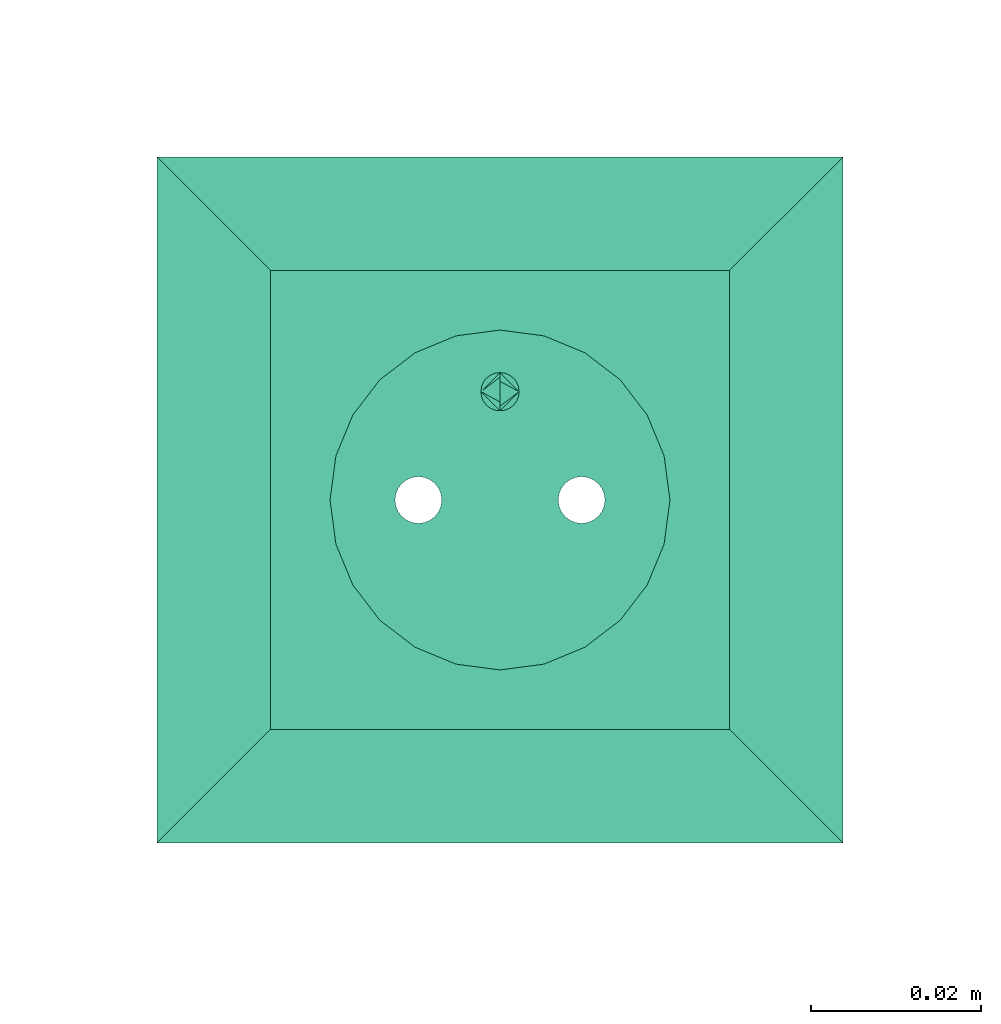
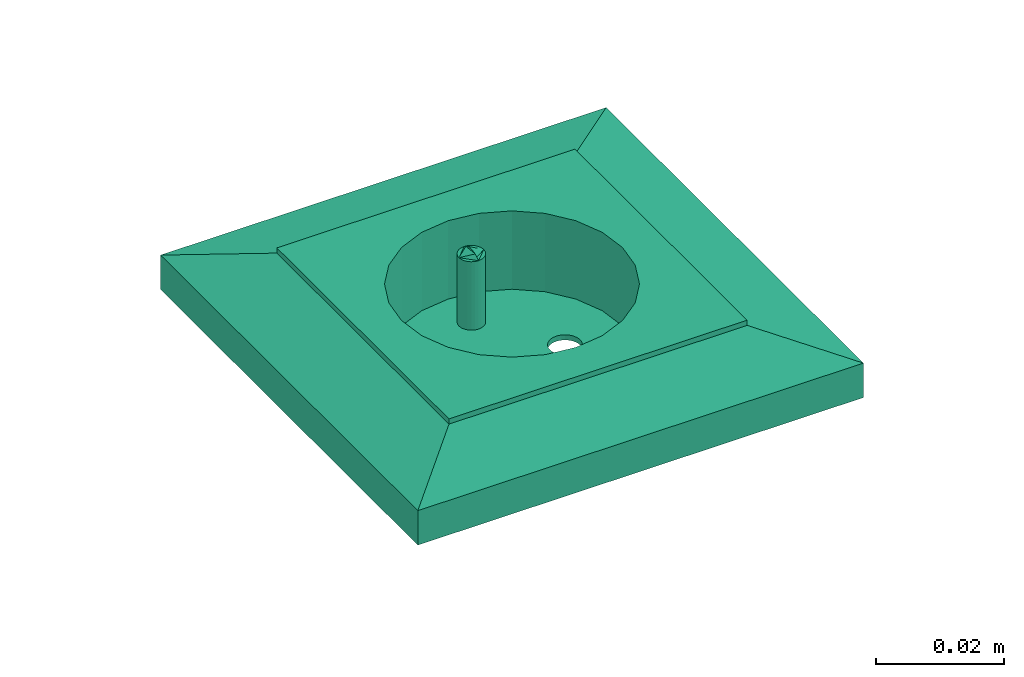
# One storey, part 30 of 153: 1 flow terminal.
"""IFC2X3 building model written with IfcOpenShell, lengths in metres."""

import ifcopenshell
import ifcopenshell.guid

model = None  # the IFC model being written
_history = None  # IfcOwnerHistory: only IFC2X3 demands one
_inside = {}  # id of a spatial element -> (the spatial element, [elements in it])
_under = {}  # id of a project, library or spatial element -> (it, [spatial elements below it])
_declared = {}  # id of a project -> (the project, [libraries it declares])
_typed = {}  # id of a type object -> (the type object, [elements of that type])
_made_of = {}  # id of a material, layer set ... -> (it, [elements and type objects made of it])


def new_model(schema):
    """Start an empty IFC model of exactly this schema.

    Asked for "IFC4X3", IfcOpenShell would pick the latest addendum, in which some entities
    have other attributes; the version numbers below select the first issue.
    IFC2X3 requires an IfcOwnerHistory on every rooted entity: one is made here for all.
    """
    global model, _history
    if schema == "IFC4X3":
        model = ifcopenshell.file(schema_version=(4, 3, 0, 0))
    else:
        model = ifcopenshell.file(schema=schema)
    _inside.clear()
    _under.clear()
    _declared.clear()
    _typed.clear()
    _made_of.clear()
    _history = None
    if model.schema == "IFC2X3":
        org = make("IfcOrganization", Name="unknown")
        user = make(
            "IfcPersonAndOrganization",
            ThePerson=make("IfcPerson", FamilyName="unknown"),
            TheOrganization=org,
        )
        app = make(
            "IfcApplication",
            ApplicationDeveloper=org,
            Version="unknown",
            ApplicationFullName="unknown",
            ApplicationIdentifier="unknown",
        )
        _history = make(
            "IfcOwnerHistory",
            OwningUser=user,
            OwningApplication=app,
            ChangeAction="ADDED",
            CreationDate=0,
        )
    return model


def make(cls, **values):
    """One entity of the class cls with the attributes given. An attribute that is None is left unset."""
    return model.create_entity(
        cls, **{name: value for name, value in values.items() if value is not None}
    )


def entity(cls, *values):
    """Any entity or typed value of the class cls, its attributes in the order of the schema. None: left unset."""
    e = model.create_entity(cls)
    for i, value in enumerate(values):
        if value is not None:
            e[i] = value
    return e


def rooted(cls, **values):
    """An entity with a GlobalId (a new one), such as an element, a storey or a relation."""
    return make(cls, GlobalId=ifcopenshell.guid.new(), OwnerHistory=_history, **values)


def si_unit(unit_type, name, prefix=None):
    """IfcSIUnit, for example si_unit("LENGTHUNIT", "METRE", prefix="MILLI")."""
    return make("IfcSIUnit", UnitType=unit_type, Prefix=prefix, Name=name)


def converted_unit(unit_type, name, factor, base, dimensions=None, offset=None):
    """IfcConversionBasedUnit, such as the inch: factor (a typed value) times the base unit."""
    return make(
        "IfcConversionBasedUnit"
        if offset is None
        else "IfcConversionBasedUnitWithOffset",
        ConversionOffset=offset,
        Dimensions=None
        if dimensions is None
        else entity("IfcDimensionalExponents", *dimensions),
        UnitType=unit_type,
        Name=name,
        ConversionFactor=make(
            "IfcMeasureWithUnit", ValueComponent=factor, UnitComponent=base
        ),
    )


def derived_unit(unit_type, elements):
    """IfcDerivedUnit: a product of units, each with its exponent."""
    return make(
        "IfcDerivedUnit",
        Elements=[
            make("IfcDerivedUnitElement", Unit=unit, Exponent=power)
            for unit, power in elements
        ],
        UnitType=unit_type,
    )


def assignment(units):
    """IfcUnitAssignment: the units of a project."""
    return None if units is None else make("IfcUnitAssignment", Units=units)


def point(xyz):
    """IfcCartesianPoint."""
    return None if xyz is None else make("IfcCartesianPoint", Coordinates=xyz)


def direction(xyz):
    """IfcDirection."""
    return None if xyz is None else make("IfcDirection", DirectionRatios=xyz)


def frame(location, z_axis=None, x_axis=None):
    """IfcAxis2Placement3D, a coordinate frame: its origin and axes. An axis left out is left unset."""
    return make(
        "IfcAxis2Placement3D",
        Location=point(location),
        Axis=direction(z_axis),
        RefDirection=direction(x_axis),
    )


def origin():
    """The frame at (0, 0, 0) with its axes left unset."""
    return frame((0.0, 0.0, 0.0))


def place(relative_to, where):
    """IfcLocalPlacement: puts the frame where relative to a parent placement (None: the world)."""
    return make(
        "IfcLocalPlacement", PlacementRelTo=relative_to, RelativePlacement=where
    )


def context(
    kind, dimensions, precision=None, world=None, true_north=None, identifier=None
):
    """IfcGeometricRepresentationContext, for example the 3D "Model" context."""
    return make(
        "IfcGeometricRepresentationContext",
        ContextIdentifier=identifier,
        ContextType=kind,
        CoordinateSpaceDimension=dimensions,
        Precision=precision,
        WorldCoordinateSystem=world,
        TrueNorth=true_north,
    )


def subcontext(parent, identifier, kind, view, scale=None):
    """IfcGeometricRepresentationSubContext, for example "Body" below "Model"."""
    return make(
        "IfcGeometricRepresentationSubContext",
        ContextIdentifier=identifier,
        ContextType=kind,
        ParentContext=parent,
        TargetScale=scale,
        TargetView=view,
    )


def project(units=None, contexts=None):
    """IfcProject with its units and contexts."""
    return rooted(
        "IfcProject",
        Name="project",
        RepresentationContexts=contexts,
        UnitsInContext=assignment(units),
    )


def spatial(cls, under=None, at=None, **own):
    """A site, building, storey or space (cls), placed at a placement, below another one or the project."""
    s = rooted(cls, ObjectPlacement=at, **own)
    if under is not None:
        _under.setdefault(under.id(), (under, []))[1].append(s)
    return s


def faces_of(points, faces, orient=None, outer=None):
    """IfcFace entities. A face is a list of loops; a loop is a list of indices into points, from 0.

    orient and outer hold one flag for each loop. By default every Orientation is true, the
    first loop of a face is its IfcFaceOuterBound and the others are IfcFaceBound.
    """
    made = []
    for i, loops in enumerate(faces):
        bounds = []
        for j, loop in enumerate(loops):
            is_outer = j == 0 if outer is None else outer[i][j]
            bounds.append(
                make(
                    "IfcFaceOuterBound" if is_outer else "IfcFaceBound",
                    Bound=make("IfcPolyLoop", Polygon=[points[k] for k in loop]),
                    Orientation=True if orient is None else orient[i][j],
                )
            )
        made.append(make("IfcFace", Bounds=bounds))
    return made


def face_set(faces, orient=None, outer=None):
    """The faces of one IfcConnectedFaceSet. surface_model builds it on its shared points."""
    return ("IfcConnectedFaceSet", faces, orient, outer)


def surface_model(cls, points, shells):
    """IfcFaceBasedSurfaceModel or IfcShellBasedSurfaceModel (cls): surfaces that need not close."""
    shared = [point(p) for p in points]
    made = [make(c, CfsFaces=faces_of(shared, fs, o, b)) for c, fs, o, b in shells]
    if cls == "IfcFaceBasedSurfaceModel":
        return make(cls, FbsmFaces=made)
    return make(cls, SbsmBoundary=made)


def shape(context_of_items, identifier, shape_type, items):
    """IfcShapeRepresentation: the items that make up one representation, for example the "Body"."""
    return make(
        "IfcShapeRepresentation",
        ContextOfItems=context_of_items,
        RepresentationIdentifier=identifier,
        RepresentationType=shape_type,
        Items=items,
    )


def source(mapping_origin, context_of_items, identifier, shape_type, items):
    """IfcRepresentationMap: a shape defined once, which mapped items show again and again."""
    return make(
        "IfcRepresentationMap",
        MappingOrigin=mapping_origin,
        MappedRepresentation=shape(context_of_items, identifier, shape_type, items),
    )


def transform(
    local_origin,
    x_axis=None,
    y_axis=None,
    z_axis=None,
    scale=None,
    scale2=None,
    scale3=None,
    uniform=True,
):
    """IfcCartesianTransformationOperator3D, or its non-uniform kind. x_axis, y_axis, z_axis: its Axis1, 2, 3."""
    if uniform:
        return make(
            "IfcCartesianTransformationOperator3D",
            Axis1=direction(x_axis),
            Axis2=direction(y_axis),
            LocalOrigin=point(local_origin),
            Scale=scale,
            Axis3=direction(z_axis),
        )
    return make(
        "IfcCartesianTransformationOperator3DnonUniform",
        Axis1=direction(x_axis),
        Axis2=direction(y_axis),
        LocalOrigin=point(local_origin),
        Scale=scale,
        Axis3=direction(z_axis),
        Scale2=scale2,
        Scale3=scale3,
    )


def mapped(mapping_source, mapping_target):
    """IfcMappedItem: shows the shape of a source again, moved by a transform."""
    return make(
        "IfcMappedItem", MappingSource=mapping_source, MappingTarget=mapping_target
    )


def made_of(thing, what):
    """Note that an element or type object is made of a material, layer set ...; save() writes the relation."""
    if what is not None:
        _made_of.setdefault(what.id(), (what, []))[1].append(thing)
    return thing


def type_object(cls, material=None, **own):
    """A type object (cls), such as IfcWallType, which elements share."""
    return made_of(rooted(cls, **own), material)


def type_shapes(of_type, sources):
    """Give a type object the sources (RepresentationMaps) that its elements show as mapped items."""
    of_type.RepresentationMaps = sources


def element(
    cls,
    number,
    at=None,
    inside=None,
    cuts=None,
    type_object=None,
    material=None,
    context=None,
    identifier="Body",
    shape_type=None,
    held_by="IfcProductDefinitionShape",
    body=None,
    shapes=None,
    **own,
):
    """One element of the class cls, such as IfcWall. Its Tag is "e" and its number.

    at: its placement. inside: the storey or other place that contains it. cuts: it is an
    opening in that element (IfcRelVoidsElement). A single representation is given by context,
    identifier, shape_type and body (its items); several are given by shapes. held_by: the class
    of the entity that holds the representations. save() writes the other relations.
    """
    e = rooted(cls, Tag="e%d" % number, ObjectPlacement=at, **own)
    if body is not None:
        shapes = [shape(context, identifier, shape_type, body)]
    if shapes is not None:
        e.Representation = make(held_by, Representations=shapes)
    if inside is not None:
        _inside.setdefault(inside.id(), (inside, []))[1].append(e)
    if cuts is not None:
        rooted(
            "IfcRelVoidsElement", RelatingBuildingElement=cuts, RelatedOpeningElement=e
        )
    if type_object is not None:
        _typed.setdefault(type_object.id(), (type_object, []))[1].append(e)
    return made_of(e, material)


def aggregate(whole, parts):
    """IfcRelAggregates: a whole, such as a stair, and the parts it consists of."""
    return rooted("IfcRelAggregates", RelatingObject=whole, RelatedObjects=parts)


def save(model, path):
    """Write the relations noted so far, then the file.

    IfcRelAggregates (storeys below a building ...), IfcRelContainedInSpatialStructure (elements
    in a storey), IfcRelDefinesByType, IfcRelAssociatesMaterial and IfcRelDeclares: one each for
    every whole, place, type object, material and project.
    """
    for whole, parts in _under.values():
        aggregate(whole, parts)
    for where, things in _inside.values():
        rooted(
            "IfcRelContainedInSpatialStructure",
            RelatedElements=things,
            RelatingStructure=where,
        )
    for kind, things in _typed.values():
        rooted("IfcRelDefinesByType", RelatedObjects=things, RelatingType=kind)
    for what, things in _made_of.values():
        rooted("IfcRelAssociatesMaterial", RelatedObjects=things, RelatingMaterial=what)
    for by, libraries in _declared.values():
        rooted("IfcRelDeclares", RelatingContext=by, RelatedDefinitions=libraries)
    model.write(path)


model = new_model("IFC2X3")

# Units and contexts
model_context = context("Model", 3, precision=1e-05, world=origin(), true_north=direction((6.12303176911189e-17, 1.0)))
body_context = subcontext(model_context, "Body", "Model", "MODEL_VIEW")
ifc_project = project(units=[si_unit("LENGTHUNIT", "METRE"), si_unit("AREAUNIT", "SQUARE_METRE"), si_unit("VOLUMEUNIT", "CUBIC_METRE"), converted_unit("PLANEANGLEUNIT", "DEGREE", entity("IfcRatioMeasure", 0.0174532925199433), si_unit("PLANEANGLEUNIT", "RADIAN"), dimensions=[0, 0, 0, 0, 0, 0, 0]), si_unit("MASSUNIT", "GRAM", prefix="KILO"), derived_unit("MASSDENSITYUNIT", [(si_unit("MASSUNIT", "GRAM", prefix="KILO"), 1), (si_unit("LENGTHUNIT", "METRE"), -3)]), si_unit("TIMEUNIT", "SECOND"), si_unit("FREQUENCYUNIT", "HERTZ"), si_unit("THERMODYNAMICTEMPERATUREUNIT", "DEGREE_CELSIUS"), derived_unit("THERMALTRANSMITTANCEUNIT", [(si_unit("MASSUNIT", "GRAM", prefix="KILO"), 1), (si_unit("THERMODYNAMICTEMPERATUREUNIT", "KELVIN"), -1), (si_unit("TIMEUNIT", "SECOND"), -3)]), derived_unit("VOLUMETRICFLOWRATEUNIT", [(si_unit("LENGTHUNIT", "METRE"), 3), (si_unit("TIMEUNIT", "SECOND"), -1)]), si_unit("ELECTRICCURRENTUNIT", "AMPERE"), si_unit("ELECTRICVOLTAGEUNIT", "VOLT"), si_unit("POWERUNIT", "WATT"), si_unit("FORCEUNIT", "NEWTON"), si_unit("ILLUMINANCEUNIT", "LUX"), si_unit("LUMINOUSFLUXUNIT", "LUMEN"), si_unit("LUMINOUSINTENSITYUNIT", "CANDELA"), derived_unit("USERDEFINED", [(si_unit("MASSUNIT", "GRAM", prefix="KILO"), -1), (si_unit("LENGTHUNIT", "METRE"), -2), (si_unit("TIMEUNIT", "SECOND"), 3), (si_unit("LUMINOUSFLUXUNIT", "LUMEN"), 1)]), derived_unit("LINEARVELOCITYUNIT", [(si_unit("LENGTHUNIT", "METRE"), 1), (si_unit("TIMEUNIT", "SECOND"), -1)]), si_unit("PRESSUREUNIT", "PASCAL"), derived_unit("USERDEFINED", [(si_unit("LENGTHUNIT", "METRE"), -2), (si_unit("MASSUNIT", "GRAM", prefix="KILO"), 1), (si_unit("TIMEUNIT", "SECOND"), -2)])], contexts=[model_context])

# Site, building, storey
site_placement = place(None, origin())
site = spatial("IfcSite", under=ifc_project, at=site_placement, Name="Default", CompositionType="ELEMENT")
building_placement = place(site_placement, origin())
building = spatial("IfcBuilding", under=site, at=building_placement, CompositionType="ELEMENT")
storey_placement = place(building_placement, frame((0.0, 0.0, -4.62)))
storey = spatial("IfcBuildingStorey", under=building, at=storey_placement, Name="S02", CompositionType="ELEMENT", Elevation=-4.62)

# Flow terminal
light_fixture_type = type_object("IfcLightFixtureType", Name="PC IP55", PredefinedType="NOTDEFINED")
shared_shape = source(origin(), body_context, "Body", "SurfaceModel", [
    surface_model("IfcFaceBasedSurfaceModel", [(-0.00225000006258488, 0.0127499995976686, 0.00949633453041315), (0.0, 0.0104999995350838, 0.00949633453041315), (0.0, 0.0115376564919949, 0.0101656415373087), (0.0, 0.0139623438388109, 0.0101656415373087), (0.0, 0.0144589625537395, 0.00984531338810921), (0.0, 0.0121178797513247, 0.0102778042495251), (0.0, 0.0133821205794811, 0.0102778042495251), (0.0, 0.0127499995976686, 0.010399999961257), (0.0, 0.0149999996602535, 0.00949633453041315), (0.00225000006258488, 0.0127499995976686, 0.00949633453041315), (0.0, 0.0110410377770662, 0.00984531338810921), (0.0, 0.0127499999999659, 0.00949633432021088), (0.00225000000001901, 0.0127499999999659, 0.00949633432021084), (0.00217333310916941, 0.0121676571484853, 0.00949633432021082), (0.00194855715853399, 0.0116249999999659, 0.00949633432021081), (0.00159099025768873, 0.0111590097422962, 0.00949633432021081), (0.001125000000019, 0.010801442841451, 0.00949633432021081), (0.00058234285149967, 0.0105766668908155, 0.00949633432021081), (0.0, 0.0104999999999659, 0.00949633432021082), (-0.000582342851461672, 0.0105766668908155, 0.00949633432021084), (-0.001124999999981, 0.010801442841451, 0.00949633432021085), (-0.00159099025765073, 0.0111590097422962, 0.00949633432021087), (-0.00194855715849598, 0.011624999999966, 0.00949633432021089), (-0.0021733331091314, 0.0121676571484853, 0.00949633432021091), (-0.00224999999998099, 0.012749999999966, 0.00949633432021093), (-0.00217333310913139, 0.0133323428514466, 0.00949633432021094), (-0.00194855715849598, 0.013874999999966, 0.00949633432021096), (-0.00159099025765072, 0.0143409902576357, 0.00949633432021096), (-0.00112499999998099, 0.0146985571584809, 0.00949633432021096), (-0.00058234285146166, 0.0149233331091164, 0.00949633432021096), (0.0, 0.0149999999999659, 0.00949633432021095), (0.000582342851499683, 0.0149233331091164, 0.00949633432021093), (0.00112500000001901, 0.0146985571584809, 0.00949633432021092), (0.00159099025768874, 0.0143409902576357, 0.00949633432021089), (0.001948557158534, 0.0138749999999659, 0.00949633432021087), (0.00217333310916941, 0.0133323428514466, 0.00949633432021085), (0.00225000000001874, 0.0127499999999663, -0.00360000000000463), (0.00217333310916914, 0.0121676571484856, -0.00360000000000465), (0.00194855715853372, 0.0116249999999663, -0.00360000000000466), (0.00159099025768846, 0.0111590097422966, -0.00360000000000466), (0.00112500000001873, 0.0108014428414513, -0.00360000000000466), (0.000582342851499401, 0.0105766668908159, -0.00360000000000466), (0.0, 0.0104999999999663, -0.00360000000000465), (-0.000582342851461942, 0.0105766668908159, -0.00360000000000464), (-0.00112499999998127, 0.0108014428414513, -0.00360000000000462), (-0.001590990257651, 0.0111590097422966, -0.0036000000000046), (-0.00194855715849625, 0.0116249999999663, -0.00360000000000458), (-0.00217333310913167, 0.0121676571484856, -0.00360000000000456), (-0.00224999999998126, 0.0127499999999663, -0.00360000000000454), (-0.00217333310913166, 0.013332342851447, -0.00360000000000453), (-0.00194855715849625, 0.0138749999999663, -0.00360000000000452), (-0.00159099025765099, 0.014340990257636, -0.00360000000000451), (-0.00112499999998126, 0.0146985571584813, -0.00360000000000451), (-0.000582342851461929, 0.0149233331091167, -0.00360000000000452), (0.0, 0.0149999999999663, -0.00360000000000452), (0.000582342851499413, 0.0149233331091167, -0.00360000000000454), (0.00112500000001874, 0.0146985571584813, -0.00360000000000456), (0.00159099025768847, 0.014340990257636, -0.00360000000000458), (0.00194855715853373, 0.0138749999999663, -0.0036000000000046), (0.00217333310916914, 0.013332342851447, -0.00360000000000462), (0.0270000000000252, 0.026999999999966, 0.0113999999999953), (-0.0269999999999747, 0.026999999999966, 0.0113999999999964), (-0.0269999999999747, -0.0270000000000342, 0.0113999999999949), (0.0270000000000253, -0.0270000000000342, 0.0113999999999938), (-0.0199999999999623, 0.0, 0.0113999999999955), (-0.0193185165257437, -0.00517638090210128, 0.0113999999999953), (-0.0173205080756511, -0.0100000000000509, 0.0113999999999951), (-0.0141421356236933, -0.0141421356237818, 0.011399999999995), (-0.00999999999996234, -0.0173205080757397, 0.0113999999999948), (-0.00517638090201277, -0.0193185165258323, 0.0113999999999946), (0.0, -0.0200000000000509, 0.0113999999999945), (0.00517638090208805, -0.0193185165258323, 0.0113999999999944), (0.0100000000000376, -0.0173205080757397, 0.0113999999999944), (0.0141421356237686, -0.0141421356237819, 0.0113999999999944), (0.0173205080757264, -0.010000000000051, 0.0113999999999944), (0.0193185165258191, -0.00517638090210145, 0.0113999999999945), (0.0200000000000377, 0.0, 0.0113999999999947), (0.0193185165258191, 0.00517638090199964, 0.0113999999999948), (0.0173205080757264, 0.0099999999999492, 0.011399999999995), (0.0141421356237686, 0.0141421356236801, 0.0113999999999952), (0.0100000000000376, 0.0173205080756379, 0.0113999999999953), (0.00517638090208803, 0.0193185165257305, 0.0113999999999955), (0.0, 0.0199999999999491, 0.0113999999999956), (-0.00517638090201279, 0.0193185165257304, 0.0113999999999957), (-0.00999999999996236, 0.0173205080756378, 0.0113999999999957), (-0.0141421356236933, 0.01414213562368, 0.0113999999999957), (-0.0173205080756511, 0.00999999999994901, 0.0113999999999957), (-0.0193185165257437, 0.00517638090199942, 0.0113999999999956), (0.0270000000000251, 0.0269999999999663, 0.00199999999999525), (0.0270000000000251, -0.0270000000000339, 0.00199999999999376), (-0.0269999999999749, -0.0270000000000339, 0.00199999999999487), (-0.0269999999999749, 0.0269999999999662, 0.00199999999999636), (0.0210000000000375, 0.0, 0.00199999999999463), (0.0202844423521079, -0.00543519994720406, 0.00199999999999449), (0.0181865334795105, -0.0105000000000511, 0.0019999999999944), (0.0148492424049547, -0.0148492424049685, 0.00199999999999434), (0.0105000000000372, -0.0181865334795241, 0.00199999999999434), (0.0054351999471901, -0.0202844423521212, 0.00199999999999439), (0.0, -0.0210000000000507, 0.00199999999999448), (-0.00543519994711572, -0.020284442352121, 0.00199999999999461), (-0.0104999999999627, -0.0181865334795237, 0.00199999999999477), (-0.0148492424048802, -0.014849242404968, 0.00199999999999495), (-0.0181865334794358, -0.0105000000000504, 0.00199999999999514), (-0.020284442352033, -0.00543519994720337, 0.00199999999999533), (-0.0209999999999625, 0.0, 0.00199999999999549), (-0.0202844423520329, 0.0054351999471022, 0.00199999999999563), (-0.0181865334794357, 0.0104999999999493, 0.00199999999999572), (-0.01484924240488, 0.0148492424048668, 0.00199999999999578), (-0.0104999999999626, 0.0181865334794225, 0.00199999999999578), (-0.00543519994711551, 0.0202844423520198, 0.00199999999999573), (0.0, 0.0209999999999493, 0.00199999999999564), (0.00543519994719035, 0.0202844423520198, 0.00199999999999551), (0.0105000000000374, 0.0181865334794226, 0.00199999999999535), (0.0148492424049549, 0.0148492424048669, 0.00199999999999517), (0.0181865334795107, 0.0104999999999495, 0.00199999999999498), (0.0202844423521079, 0.00543519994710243, 0.00199999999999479), (0.0200000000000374, 0.0, -0.00360000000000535), (0.0193185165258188, -0.00517638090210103, -0.00360000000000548), (0.0173205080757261, -0.0100000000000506, -0.00360000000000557), (0.0141421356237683, -0.0141421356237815, -0.00360000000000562), (0.0100000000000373, -0.0173205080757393, -0.00360000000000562), (0.00517638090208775, -0.0193185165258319, -0.00360000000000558), (0.0, -0.0200000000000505, -0.00360000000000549), (-0.00517638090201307, -0.0193185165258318, -0.00360000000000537), (-0.00999999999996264, -0.0173205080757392, -0.00360000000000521), (-0.0141421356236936, -0.0141421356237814, -0.00360000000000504), (-0.0173205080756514, -0.0100000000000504, -0.00360000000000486), (-0.019318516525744, -0.00517638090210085, -0.00360000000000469), (-0.0199999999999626, 0.0, -0.00360000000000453), (-0.0193185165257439, 0.00517638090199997, -0.0036000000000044), (-0.0173205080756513, 0.00999999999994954, -0.00360000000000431), (-0.0141421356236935, 0.0141421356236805, -0.00360000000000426), (-0.00999999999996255, 0.0173205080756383, -0.00360000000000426), (-0.00517638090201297, 0.0193185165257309, -0.0036000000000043), (0.0, 0.0199999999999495, -0.00360000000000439), (0.00517638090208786, 0.0193185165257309, -0.00360000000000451), (0.0100000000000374, 0.0173205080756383, -0.00360000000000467), (0.0141421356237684, 0.0141421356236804, -0.00360000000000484), (0.0173205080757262, 0.0099999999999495, -0.00360000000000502), (0.0193185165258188, 0.00517638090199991, -0.00360000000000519), (-0.0123499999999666, 0.0, -0.00360000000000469), (-0.0122562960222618, -0.000711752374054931, -0.00360000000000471), (-0.0119815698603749, -0.00137500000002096, -0.00360000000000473), (-0.0115445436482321, -0.00194454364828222, -0.00360000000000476), (-0.0109749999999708, -0.00238156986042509, -0.00360000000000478), (-0.0103117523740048, -0.00265629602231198, -0.0036000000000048), (-0.00959999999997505, -0.00275000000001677, -0.00360000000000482), (-0.0088882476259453, -0.00265629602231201, -0.00360000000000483), (-0.00822499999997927, -0.00238156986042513, -0.00360000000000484), (-0.00765545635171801, -0.00194454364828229, -0.00360000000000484), (-0.00721843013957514, -0.00137500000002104, -0.00360000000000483), (-0.00694370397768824, -0.000711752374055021, -0.00360000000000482), (-0.00684999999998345, 0.0, -0.0036000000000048), (-0.00694370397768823, 0.000711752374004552, -0.00360000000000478), (-0.00721843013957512, 0.00137499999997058, -0.00360000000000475), (-0.00765545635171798, 0.00194454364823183, -0.00360000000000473), (-0.00822499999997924, 0.00238156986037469, -0.0036000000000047), (-0.00888824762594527, 0.00265629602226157, -0.00360000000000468), (-0.00959999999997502, 0.00274999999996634, -0.00360000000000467), (-0.0103117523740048, 0.00265629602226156, -0.00360000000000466), (-0.0109749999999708, 0.00238156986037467, -0.00360000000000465), (-0.011544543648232, 0.00194454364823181, -0.00360000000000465), (-0.0119815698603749, 0.00137499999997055, -0.00360000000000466), (-0.0122562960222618, 0.000711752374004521, -0.00360000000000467), (0.00685000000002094, 0.0, -0.00360000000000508), (0.0069437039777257, -0.00071175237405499, -0.0036000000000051), (0.00721843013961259, -0.00137500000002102, -0.00360000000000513), (0.00765545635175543, -0.00194454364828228, -0.00360000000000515), (0.00822500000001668, -0.00238156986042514, -0.00360000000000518), (0.00888824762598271, -0.00265629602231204, -0.0036000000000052), (0.00960000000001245, -0.00275000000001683, -0.00360000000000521), (0.0103117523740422, -0.00265629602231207, -0.00360000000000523), (0.0109750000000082, -0.00238156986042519, -0.00360000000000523), (0.0115445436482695, -0.00194454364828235, -0.00360000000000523), (0.0119815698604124, -0.0013750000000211, -0.00360000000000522), (0.0122562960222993, -0.00071175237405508, -0.00360000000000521), (0.012350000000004, 0.0, -0.00360000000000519), (0.0122562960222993, 0.000711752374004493, -0.00360000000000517), (0.0119815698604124, 0.00137499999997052, -0.00360000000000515), (0.0115445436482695, 0.00194454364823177, -0.00360000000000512), (0.0109750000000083, 0.00238156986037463, -0.0036000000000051), (0.0103117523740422, 0.00265629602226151, -0.00360000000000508), (0.00960000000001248, 0.00274999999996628, -0.00360000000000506), (0.00888824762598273, 0.0026562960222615, -0.00360000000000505), (0.0082250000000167, 0.00238156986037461, -0.00360000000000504), (0.00765545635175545, 0.00194454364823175, -0.00360000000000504), (0.0072184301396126, 0.00137499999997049, -0.00360000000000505), (0.00694370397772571, 0.000711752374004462, -0.00360000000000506), (0.0210000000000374, 0.0, -0.00460000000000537), (0.0202844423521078, -0.00543519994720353, -0.00460000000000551), (0.0181865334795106, -0.0105000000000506, -0.0046000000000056), (0.0148492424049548, -0.0148492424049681, -0.00460000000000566), (0.0105000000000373, -0.0181865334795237, -0.00460000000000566), (0.00543519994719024, -0.0202844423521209, -0.00460000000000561), (0.0, -0.0210000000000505, -0.00460000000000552), (-0.00543519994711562, -0.0202844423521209, -0.00460000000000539), (-0.0104999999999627, -0.0181865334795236, -0.00460000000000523), (-0.0148492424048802, -0.0148492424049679, -0.00460000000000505), (-0.0181865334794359, -0.0105000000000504, -0.00460000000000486), (-0.0202844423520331, -0.00543519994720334, -0.00460000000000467), (-0.0209999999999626, 0.0, -0.00460000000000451), (-0.020284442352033, 0.00543519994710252, -0.00460000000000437), (-0.0181865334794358, 0.0104999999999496, -0.00460000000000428), (-0.0148492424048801, 0.0148492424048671, -0.00460000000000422), (-0.0104999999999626, 0.0181865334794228, -0.00460000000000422), (-0.00543519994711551, 0.02028444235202, -0.00460000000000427), (0.0, 0.0209999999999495, -0.00460000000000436), (0.00543519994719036, 0.02028444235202, -0.00460000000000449), (0.0105000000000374, 0.0181865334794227, -0.00460000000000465), (0.0148492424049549, 0.014849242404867, -0.00460000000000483), (0.0181865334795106, 0.0104999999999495, -0.00460000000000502), (0.0202844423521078, 0.00543519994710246, -0.00460000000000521), (-0.00684999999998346, 0.0, -0.0046000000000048), (-0.00694370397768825, 0.000711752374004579, -0.00460000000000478), (-0.00721843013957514, 0.00137499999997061, -0.00460000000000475), (-0.007655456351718, 0.00194454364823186, -0.00460000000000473), (-0.00822499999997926, 0.00238156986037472, -0.0046000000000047), (-0.00888824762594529, 0.0026562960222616, -0.00460000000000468), (-0.00959999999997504, 0.00274999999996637, -0.00460000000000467), (-0.0103117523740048, 0.00265629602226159, -0.00460000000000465), (-0.0109749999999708, 0.0023815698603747, -0.00460000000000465), (-0.0115445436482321, 0.00194454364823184, -0.00460000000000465), (-0.0119815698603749, 0.00137499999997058, -0.00460000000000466), (-0.0122562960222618, 0.000711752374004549, -0.00460000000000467), (-0.0123499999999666, 0.0, -0.00460000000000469), (-0.0122562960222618, -0.000711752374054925, -0.00460000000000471), (-0.0119815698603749, -0.00137500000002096, -0.00460000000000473), (-0.0115445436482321, -0.00194454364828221, -0.00460000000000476), (-0.0109749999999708, -0.00238156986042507, -0.00460000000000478), (-0.0103117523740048, -0.00265629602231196, -0.0046000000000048), (-0.00959999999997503, -0.00275000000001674, -0.00460000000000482), (-0.00888824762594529, -0.00265629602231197, -0.00460000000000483), (-0.00822499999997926, -0.00238156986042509, -0.00460000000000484), (-0.007655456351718, -0.00194454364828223, -0.00460000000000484), (-0.00721843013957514, -0.00137500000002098, -0.00460000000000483), (-0.00694370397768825, -0.000711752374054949, -0.00460000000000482), (0.012350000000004, 0.0, -0.00460000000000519), (0.0122562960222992, 0.000711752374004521, -0.00460000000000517), (0.0119815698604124, 0.00137499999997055, -0.00460000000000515), (0.0115445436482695, 0.0019445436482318, -0.00460000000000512), (0.0109750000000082, 0.00238156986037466, -0.0046000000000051), (0.0103117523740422, 0.00265629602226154, -0.00460000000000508), (0.00960000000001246, 0.00274999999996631, -0.00460000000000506), (0.00888824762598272, 0.00265629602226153, -0.00460000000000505), (0.00822500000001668, 0.00238156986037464, -0.00460000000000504), (0.00765545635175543, 0.00194454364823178, -0.00460000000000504), (0.00721843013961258, 0.00137499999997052, -0.00460000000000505), (0.00694370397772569, 0.00071175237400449, -0.00460000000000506), (0.00685000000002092, 0.0, -0.00460000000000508), (0.00694370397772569, -0.000711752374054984, -0.0046000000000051), (0.00721843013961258, -0.00137500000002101, -0.00460000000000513), (0.00765545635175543, -0.00194454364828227, -0.00460000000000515), (0.00822500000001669, -0.00238156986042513, -0.00460000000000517), (0.00888824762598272, -0.00265629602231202, -0.0046000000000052), (0.00960000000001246, -0.0027500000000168, -0.00460000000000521), (0.0103117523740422, -0.00265629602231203, -0.00460000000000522), (0.0109750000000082, -0.00238156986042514, -0.00460000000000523), (0.0115445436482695, -0.00194454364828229, -0.00460000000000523), (0.0119815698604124, -0.00137500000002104, -0.00460000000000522), (0.0122562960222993, -0.000711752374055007, -0.00460000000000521), (0.040350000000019, 0.0403499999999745, 0.00659999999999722), (0.040350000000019, -0.0403500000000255, 0.00659999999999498), (-0.0403499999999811, -0.0403500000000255, 0.00659999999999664), (-0.0403499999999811, 0.0403499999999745, 0.00659999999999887), (0.027000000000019, 0.0269999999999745, 0.00659999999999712), (-0.0269999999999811, 0.0269999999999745, 0.00659999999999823), (-0.026999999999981, -0.0270000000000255, 0.00659999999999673), (0.027000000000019, -0.0270000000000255, 0.00659999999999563), (0.027000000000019, 0.0269999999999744, 0.0103999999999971), (-0.026999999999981, 0.0269999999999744, 0.0103999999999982), (-0.026999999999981, -0.0270000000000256, 0.0103999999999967), (0.027000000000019, -0.0270000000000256, 0.0103999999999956), (0.040350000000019, 0.0403499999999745, 0.00659999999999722), (0.040350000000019, -0.0403500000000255, 0.00659999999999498), (-0.0403499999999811, -0.0403500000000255, 0.00659999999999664), (-0.0403499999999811, 0.0403499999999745, 0.00659999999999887), (-0.0269999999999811, 0.0269999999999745, 0.00659999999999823), (-0.0269999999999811, -0.0270000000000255, 0.00659999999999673), (0.0270000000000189, -0.0270000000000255, 0.00659999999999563), (0.0270000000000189, 0.0269999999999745, 0.00659999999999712), (0.0403500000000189, 0.0403499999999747, 0.0), (0.0403500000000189, -0.0403500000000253, 0.0), (-0.0403499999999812, -0.0403500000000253, 0.0), (-0.0403499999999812, 0.0403499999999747, 0.0), (0.0270000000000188, 0.0269999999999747, 0.0), (-0.0269999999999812, 0.0269999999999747, 0.0), (-0.0269999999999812, -0.0270000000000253, 0.0), (0.0270000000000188, -0.0270000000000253, 0.0)], [face_set([[[0, 1, 2]], [[3, 4, 2, 5]], [[6, 3, 5, 7]], [[2, 4, 0]], [[4, 8, 0]], [[3, 9, 8]], [[1, 9, 10]], [[2, 3, 6, 7]], [[3, 10, 9]], [[2, 10, 3]], [[11, 1, 0, 8]], [[11, 8, 9, 1]]]), face_set([[[12, 13, 14, 15, 16, 17, 18, 19, 20, 21, 22, 23, 24, 25, 26, 27, 28, 29, 30, 31, 32, 33, 34, 35]], [[36, 37, 38, 39, 40, 41, 42, 43, 44, 45, 46, 47, 48, 49, 50, 51, 52, 53, 54, 55, 56, 57, 58, 59]], [[48, 47, 23, 24]], [[47, 46, 22, 23]], [[45, 44, 20, 21]], [[46, 45, 21, 22]], [[44, 43, 19, 20]], [[18, 19, 43, 42]], [[42, 41, 17, 18]], [[41, 40, 16, 17]], [[39, 38, 14, 15]], [[40, 39, 15, 16]], [[38, 37, 13, 14]], [[12, 13, 37, 36]], [[36, 59, 35, 12]], [[59, 58, 34, 35]], [[57, 56, 32, 33]], [[58, 57, 33, 34]], [[56, 55, 31, 32]], [[30, 31, 55, 54]], [[54, 53, 29, 30]], [[53, 52, 28, 29]], [[51, 50, 26, 27]], [[52, 51, 27, 28]], [[50, 49, 25, 26]], [[24, 25, 49, 48]]]), face_set([[[60, 61, 62, 63], [64, 65, 66, 67, 68, 69, 70, 71, 72, 73, 74, 75, 76, 77, 78, 79, 80, 81, 82, 83, 84, 85, 86, 87]], [[88, 89, 90, 91], [92, 93, 94, 95, 96, 97, 98, 99, 100, 101, 102, 103, 104, 105, 106, 107, 108, 109, 110, 111, 112, 113, 114, 115]], [[61, 60, 88, 91]], [[62, 61, 91, 90]], [[63, 62, 90, 89]], [[60, 63, 89, 88]], [[116, 117, 118, 119, 120, 121, 122, 123, 124, 125, 126, 127, 128, 129, 130, 131, 132, 133, 134, 135, 136, 137, 138, 139], [140, 141, 142, 143, 144, 145, 146, 147, 148, 149, 150, 151, 152, 153, 154, 155, 156, 157, 158, 159, 160, 161, 162, 163], [164, 165, 166, 167, 168, 169, 170, 171, 172, 173, 174, 175, 176, 177, 178, 179, 180, 181, 182, 183, 184, 185, 186, 187]], [[64, 128, 127, 65]], [[65, 127, 126, 66]], [[67, 125, 124, 68]], [[66, 126, 125, 67]], [[68, 124, 123, 69]], [[122, 70, 69, 123]], [[70, 122, 121, 71]], [[71, 121, 120, 72]], [[73, 119, 118, 74]], [[72, 120, 119, 73]], [[74, 118, 117, 75]], [[116, 76, 75, 117]], [[76, 116, 139, 77]], [[77, 139, 138, 78]], [[79, 137, 136, 80]], [[78, 138, 137, 79]], [[80, 136, 135, 81]], [[134, 82, 81, 135]], [[82, 134, 133, 83]], [[83, 133, 132, 84]], [[84, 132, 131, 85]], [[85, 131, 130, 86]], [[130, 129, 87, 86]], [[64, 87, 129, 128]], [[188, 189, 190, 191, 192, 193, 194, 195, 196, 197, 198, 199, 200, 201, 202, 203, 204, 205, 206, 207, 208, 209, 210, 211], [212, 213, 214, 215, 216, 217, 218, 219, 220, 221, 222, 223, 224, 225, 226, 227, 228, 229, 230, 231, 232, 233, 234, 235], [236, 237, 238, 239, 240, 241, 242, 243, 244, 245, 246, 247, 248, 249, 250, 251, 252, 253, 254, 255, 256, 257, 258, 259]], [[200, 199, 103, 104]], [[199, 198, 102, 103]], [[197, 196, 100, 101]], [[198, 197, 101, 102]], [[196, 195, 99, 100]], [[98, 99, 195, 194]], [[194, 193, 97, 98]], [[193, 192, 96, 97]], [[191, 190, 94, 95]], [[192, 191, 95, 96]], [[190, 189, 93, 94]], [[92, 93, 189, 188]], [[188, 211, 115, 92]], [[211, 210, 114, 115]], [[209, 208, 112, 113]], [[210, 209, 113, 114]], [[208, 207, 111, 112]], [[110, 111, 207, 206]], [[206, 205, 109, 110]], [[205, 204, 108, 109]], [[203, 202, 106, 107]], [[204, 203, 107, 108]], [[202, 201, 105, 106]], [[104, 105, 201, 200]], [[141, 225, 226, 142]], [[140, 224, 225, 141]], [[144, 228, 229, 145]], [[143, 227, 228, 144]], [[142, 226, 227, 143]], [[230, 146, 145, 229]], [[149, 233, 232, 148]], [[148, 232, 231, 147]], [[152, 212, 235, 151]], [[151, 235, 234, 150]], [[150, 234, 233, 149]], [[146, 230, 231, 147]], [[154, 214, 213, 153]], [[153, 213, 212, 152]], [[157, 217, 216, 156]], [[156, 216, 215, 155]], [[155, 215, 214, 154]], [[218, 158, 157, 217]], [[160, 220, 221, 161]], [[159, 219, 220, 160]], [[163, 223, 224, 140]], [[162, 222, 223, 163]], [[161, 221, 222, 162]], [[158, 218, 219, 159]], [[166, 250, 249, 165]], [[165, 249, 248, 164]], [[169, 253, 252, 168]], [[168, 252, 251, 167]], [[167, 251, 250, 166]], [[254, 170, 169, 253]], [[172, 256, 257, 173]], [[171, 255, 256, 172]], [[175, 259, 236, 176]], [[174, 258, 259, 175]], [[173, 257, 258, 174]], [[170, 254, 255, 171]], [[177, 237, 238, 178]], [[176, 236, 237, 177]], [[180, 240, 241, 181]], [[179, 239, 240, 180]], [[178, 238, 239, 179]], [[242, 182, 181, 241]], [[185, 245, 244, 184]], [[184, 244, 243, 183]], [[164, 248, 247, 187]], [[187, 247, 246, 186]], [[186, 246, 245, 185]], [[182, 242, 243, 183]]]), face_set([[[260, 261, 262, 263], [264, 265, 266, 267]], [[260, 268, 269, 263]], [[263, 269, 270, 262]], [[262, 270, 271, 261]], [[261, 271, 268, 260]], [[264, 265, 269, 268]], [[265, 266, 270, 269]], [[266, 267, 271, 270]], [[268, 271, 267, 264]]]), face_set([[[272, 273, 274, 275], [276, 277, 278, 279]], [[280, 281, 282, 283], [284, 285, 286, 287]], [[275, 272, 280, 283]], [[274, 275, 283, 282]], [[273, 274, 282, 281]], [[272, 273, 281, 280]], [[284, 285, 276, 279]], [[285, 286, 277, 276]], [[286, 287, 278, 277]], [[279, 278, 287, 284]]])]),
])
type_shapes(light_fixture_type, [shared_shape])
flow_terminal_placement = place(storey_placement, frame((25.8960562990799, -193.482864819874, 12.45)))
element("IfcFlowTerminal", 1, at=flow_terminal_placement, inside=storey, type_object=light_fixture_type, Name="INT Prise de courant:PC IP55", ObjectType="INT Prise de courant:PC IP55", context=body_context, shape_type="MappedRepresentation", body=[
    mapped(shared_shape, transform((0.0, 0.0, 0.0), scale=1.0)),
])

save(model, "model.ifc")
